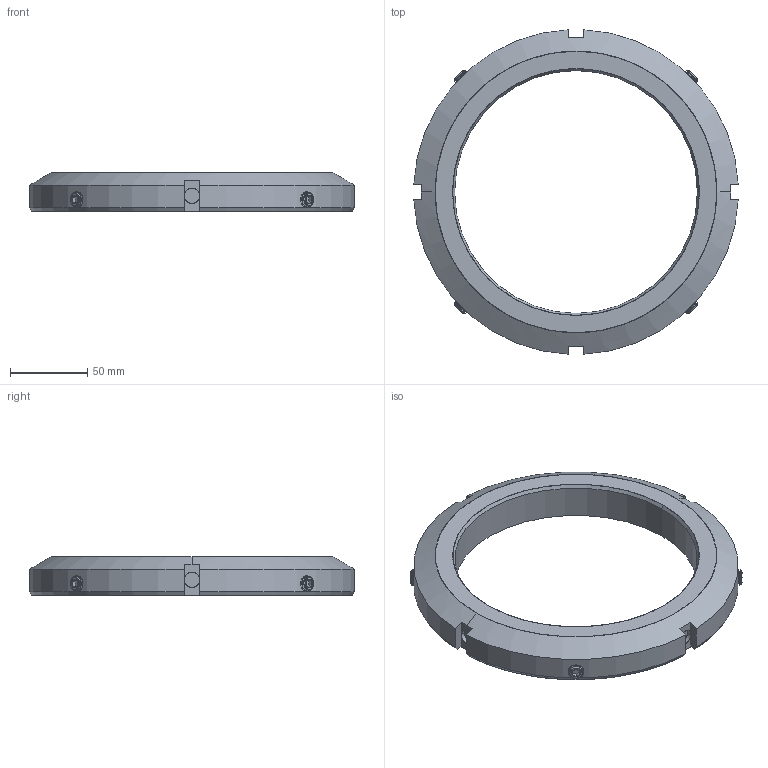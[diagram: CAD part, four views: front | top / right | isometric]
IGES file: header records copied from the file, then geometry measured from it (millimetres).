
Start section: SolidWorks IGES file using analytic representation for surfaces
Global section: file name: C:\Manufacturing Design Services\Taperline Manufacturing\Catalog\TLNKM 32\TLNKM 32 PH.IGS; native system: SolidWorks 2010; preprocessor: SolidWorks 2010; author: ProBook; date: 110807.205127; units: millimetre
Bounding box: 209.72 x 209.72 x 25 mm (x, y, z)
Surface area: 73866.9 mm2 (no closed solid volume)
Topology: 0 solids, 0 shells, 374 faces, 9206 edges, 9206 vertices
Faces by surface type: revolution 304, bspline 70
